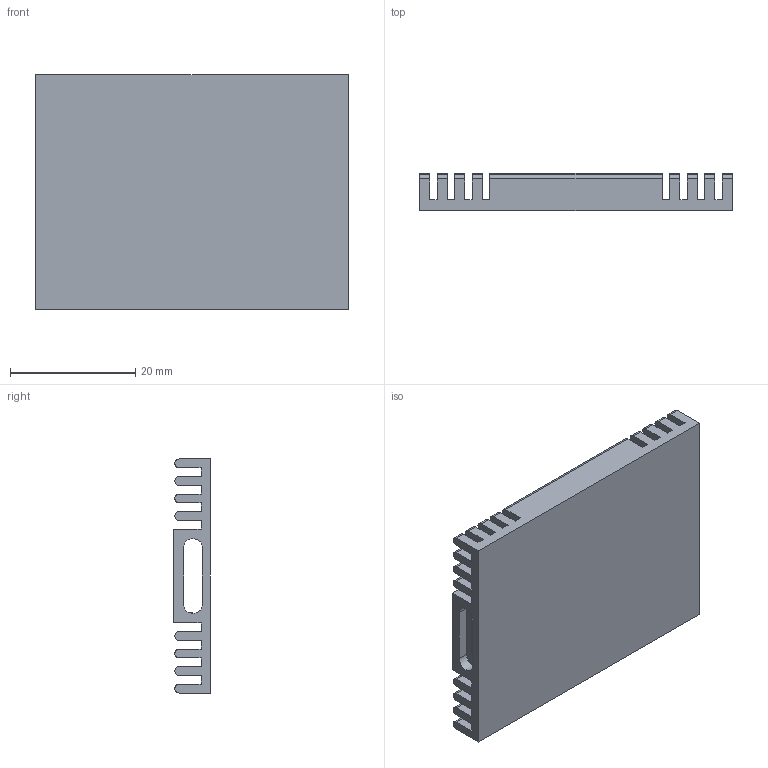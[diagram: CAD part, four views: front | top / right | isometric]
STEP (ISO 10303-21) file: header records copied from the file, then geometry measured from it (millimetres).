
FILE_DESCRIPTION (( 'STEP AP214' ), '1' );
FILE_NAME ('TEN-HS2.STEP', '2018-11-05T02:23:39', ( 'user' ), ( '' ), 'SwSTEP 2.0', 'SolidWorks 2016', '' );
FILE_SCHEMA (( 'AUTOMOTIVE_DESIGN' ));
Length unit declared in the file: millimetre
Products named in the file (1): TEN-HS2
Bounding box: 50 x 5.9 x 37.4 mm (x, y, z)
Volume: 5937.8 mm3; surface area: 9396.8 mm2
Topology: 1 solids, 1 shells, 355 faces, 1107 edges, 738 vertices
Faces by surface type: plane 272, cylinder 83
Entity records: 16214 total; most frequent: ORIENTED_EDGE 2214, CARTESIAN_POINT 2201, DIRECTION 2017, EDGE_CURVE 1107, LINE 909, VECTOR 909, VERTEX_POINT 738, AXIS2_PLACEMENT_3D 554
